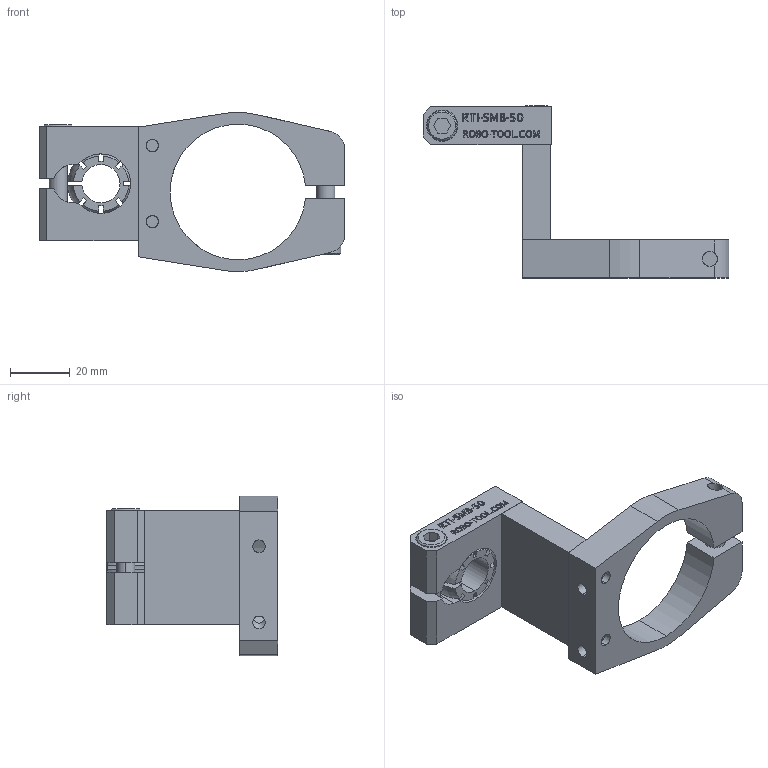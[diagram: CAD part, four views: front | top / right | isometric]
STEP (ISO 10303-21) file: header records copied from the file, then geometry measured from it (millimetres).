
FILE_DESCRIPTION (( 'STEP AP214' ), '1' );
FILE_NAME ('RTI-SNM-50-SPT20-125.STEP', '2013-10-22T14:51:43', ( 'user' ), ( '' ), 'SwSTEP 2.0', 'SolidWorks 2009', '' );
FILE_SCHEMA (( 'AUTOMOTIVE_DESIGN' ));
Length unit declared in the file: inch
Products named in the file (11): RTI-SMB-50; .875 OD_.502 ID_Swivel_Ball; RTI-NM-SPT20; RTI-NM-45-B; M6 WASHER; M6 S.H.C.S._M6x30mm; RTI-SM-SP-125; M5 WASHER; M5 S.H.C.S._M5x50mm; RTI-SNM-50-SPT20-125
Assembly tree (14 placements, depth 3):
  RTI-SNM-50-SPT20-125
    RTI-NM-SPT20
      M6 WASHER
      M6 S.H.C.S._M6x30mm
      RTI-NM-45-B
    RTI-SMB-50
      RTI-SMB-50
      M6 S.H.C.S._M6x30mm
      .875 OD_.502 ID_Swivel_Ball
      M6 WASHER
    M5 WASHER  x2
    RTI-SM-SP-125
    M5 S.H.C.S._M5x50mm  x2
Bounding box: 102.08 x 57.4 x 53.18 mm (x, y, z)
Volume: 48486.7 mm3; surface area: 27152.7 mm2
Topology: 12 solids, 12 shells, 1084 faces, 2812 edges, 1869 vertices
Faces by surface type: plane 661, bspline 313, cylinder 83, cone 17, torus 8, sphere 2
Entity records: 62823 total; most frequent: CARTESIAN_POINT 27948, ORIENTED_EDGE 5414, DIRECTION 3689, EDGE_CURVE 2707, VECTOR 1891, LINE 1891, VERTEX_POINT 1802, EDGE_LOOP 1179
